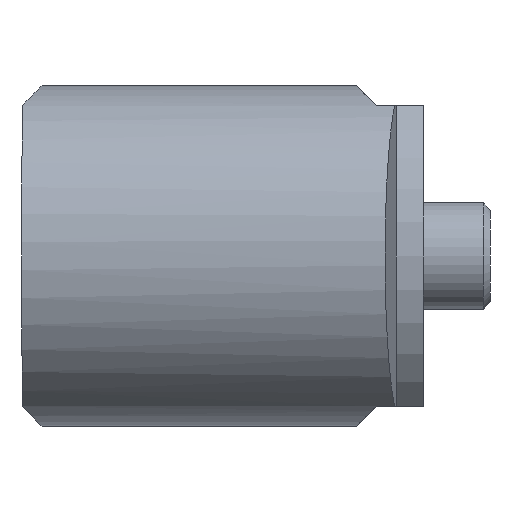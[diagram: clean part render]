
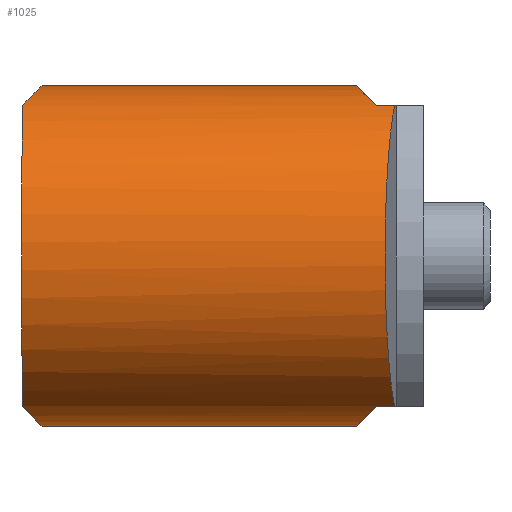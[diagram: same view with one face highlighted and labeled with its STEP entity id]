
A CAD part, left-side view. The second image highlights one B-rep face of the part: STEP entity #1025.
In plain terms, the highlighted cylindrical face has radius 12.75 mm (diameter 25.5 mm), a partial arc.
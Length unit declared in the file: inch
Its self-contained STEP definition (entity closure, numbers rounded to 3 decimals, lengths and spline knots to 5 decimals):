
#24=ELLIPSE('',#1107,0.70989,0.50197);
#25=ELLIPSE('',#1110,0.70989,0.50197);
#26=ELLIPSE('',#1113,0.70989,0.50197);
#27=ELLIPSE('',#1115,0.70989,0.50197);
#28=ELLIPSE('',#1119,0.50473,0.50197);
#90=FACE_OUTER_BOUND('',#149,.T.);
#149=EDGE_LOOP('',(#704,#705,#706,#707,#708,#709,#710,#711,#712,#713));
#216=LINE('',#1621,#269);
#229=LINE('',#1651,#282);
#238=LINE('',#1676,#291);
#239=LINE('',#1678,#292);
#269=VECTOR('',#1277,0.3937);
#282=VECTOR('',#1296,0.3937);
#291=VECTOR('',#1323,0.3937);
#292=VECTOR('',#1326,0.3937);
#326=CIRCLE('',#1121,0.50197);
#409=VERTEX_POINT('',#1611);
#410=VERTEX_POINT('',#1612);
#413=VERTEX_POINT('',#1620);
#418=VERTEX_POINT('',#1632);
#419=VERTEX_POINT('',#1633);
#426=VERTEX_POINT('',#1648);
#427=VERTEX_POINT('',#1650);
#429=VERTEX_POINT('',#1656);
#431=VERTEX_POINT('',#1662);
#432=VERTEX_POINT('',#1663);
#516=EDGE_CURVE('',#409,#410,#24,.T.);
#520=EDGE_CURVE('',#410,#413,#216,.T.);
#526=EDGE_CURVE('',#418,#419,#25,.T.);
#534=EDGE_CURVE('',#427,#426,#229,.T.);
#537=EDGE_CURVE('',#426,#429,#26,.T.);
#540=EDGE_CURVE('',#431,#432,#27,.T.);
#546=EDGE_CURVE('',#413,#427,#28,.T.);
#547=EDGE_CURVE('',#429,#431,#238,.T.);
#548=EDGE_CURVE('',#418,#432,#326,.T.);
#549=EDGE_CURVE('',#409,#419,#239,.T.);
#704=ORIENTED_EDGE('',*,*,#516,.T.);
#705=ORIENTED_EDGE('',*,*,#520,.T.);
#706=ORIENTED_EDGE('',*,*,#546,.T.);
#707=ORIENTED_EDGE('',*,*,#534,.T.);
#708=ORIENTED_EDGE('',*,*,#537,.T.);
#709=ORIENTED_EDGE('',*,*,#547,.T.);
#710=ORIENTED_EDGE('',*,*,#540,.T.);
#711=ORIENTED_EDGE('',*,*,#548,.F.);
#712=ORIENTED_EDGE('',*,*,#526,.T.);
#713=ORIENTED_EDGE('',*,*,#549,.F.);
#934=CYLINDRICAL_SURFACE('',#1120,0.50197);
#1025=ADVANCED_FACE('',(#90),#934,.T.);
#1107=AXIS2_PLACEMENT_3D('',#1613,#1270,#1271);
#1110=AXIS2_PLACEMENT_3D('',#1634,#1285,#1286);
#1113=AXIS2_PLACEMENT_3D('',#1657,#1301,#1302);
#1115=AXIS2_PLACEMENT_3D('',#1664,#1307,#1308);
#1119=AXIS2_PLACEMENT_3D('',#1674,#1319,#1320);
#1120=AXIS2_PLACEMENT_3D('',#1675,#1321,#1322);
#1121=AXIS2_PLACEMENT_3D('',#1677,#1324,#1325);
#1270=DIRECTION('center_axis',(0.,0.707,0.707));
#1271=DIRECTION('ref_axis',(0.,-0.707,0.707));
#1277=DIRECTION('',(0.,-1.,0.));
#1285=DIRECTION('center_axis',(0.,-0.707,0.707));
#1286=DIRECTION('ref_axis',(0.,0.707,0.707));
#1296=DIRECTION('',(0.,1.,0.));
#1301=DIRECTION('center_axis',(0.,0.707,-0.707));
#1302=DIRECTION('ref_axis',(0.,0.707,0.707));
#1307=DIRECTION('center_axis',(0.,-0.707,-0.707));
#1308=DIRECTION('ref_axis',(0.,-0.707,0.707));
#1319=DIRECTION('center_axis',(0.105,0.995,0.));
#1320=DIRECTION('ref_axis',(-0.995,0.105,0.));
#1321=DIRECTION('center_axis',(0.,-1.,0.));
#1322=DIRECTION('ref_axis',(0.,0.,1.));
#1323=DIRECTION('',(0.,1.,0.));
#1324=DIRECTION('center_axis',(0.,1.,0.));
#1325=DIRECTION('ref_axis',(0.,0.,1.));
#1326=DIRECTION('',(0.,1.,0.));
#1611=CARTESIAN_POINT('',(-0.24641,-0.27051,-0.50197));
#1612=CARTESIAN_POINT('',(-0.48263,-0.32957,-0.44291));
#1613=CARTESIAN_POINT('Origin',(-0.24641,-0.77248,0.));
#1620=CARTESIAN_POINT('',(-0.48263,-0.38304,-0.44291));
#1621=CARTESIAN_POINT('',(-0.48263,0.71374,-0.44291));
#1632=CARTESIAN_POINT('',(-0.48263,0.71374,-0.44291));
#1633=CARTESIAN_POINT('',(-0.24641,0.65468,-0.50197));
#1634=CARTESIAN_POINT('Origin',(-0.24641,1.15665,0.));
#1648=CARTESIAN_POINT('',(-0.48263,-0.32957,0.44291));
#1650=CARTESIAN_POINT('',(-0.48263,-0.38304,0.44291));
#1651=CARTESIAN_POINT('',(-0.48263,0.71374,0.44291));
#1656=CARTESIAN_POINT('',(-0.24641,-0.27051,0.50197));
#1657=CARTESIAN_POINT('Origin',(-0.24641,-0.77248,0.));
#1662=CARTESIAN_POINT('',(-0.24641,0.65468,0.50197));
#1663=CARTESIAN_POINT('',(-0.48263,0.71374,0.44291));
#1664=CARTESIAN_POINT('Origin',(-0.24641,1.15665,0.));
#1674=CARTESIAN_POINT('Origin',(-0.24641,-0.40787,0.));
#1675=CARTESIAN_POINT('Origin',(-0.24641,0.71374,0.));
#1676=CARTESIAN_POINT('',(-0.24641,0.71374,0.50197));
#1677=CARTESIAN_POINT('Origin',(-0.24641,0.71374,0.));
#1678=CARTESIAN_POINT('',(-0.24641,0.71374,-0.50197));
